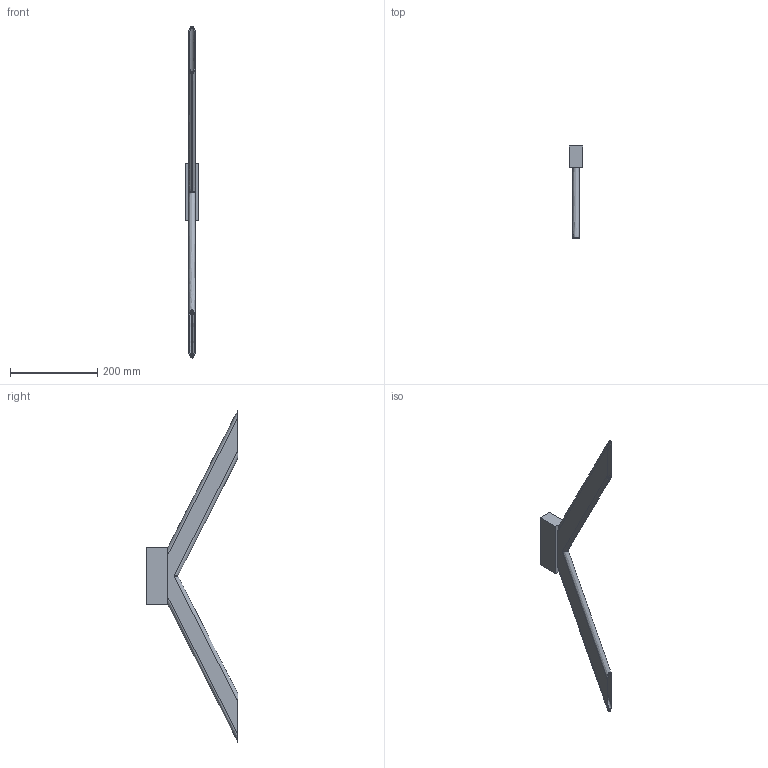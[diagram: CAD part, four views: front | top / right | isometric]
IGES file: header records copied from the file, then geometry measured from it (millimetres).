
Start section: SolidWorks IGES file using analytic representation for surfaces
Global section: file name: \\Logicserver\datos\01-VICCARBE\PRODUCTOS\53-SISTEMA\04-MODELADOS (PLANOS)\WEB\viccarbe-sistema-3D\IGS\Pata tijera.IGS; native system: SolidWorks 2013; preprocessor: SolidWorks 2013; author: bdisenyo; date: 170125.085222; units: millimetre
Bounding box: 30 x 210 x 760 mm (x, y, z)
Surface area: 177356.5 mm2 (no closed solid volume)
Topology: 0 solids, 0 shells, 38 faces, 812 edges, 812 vertices
Faces by surface type: bspline 20, revolution 18
